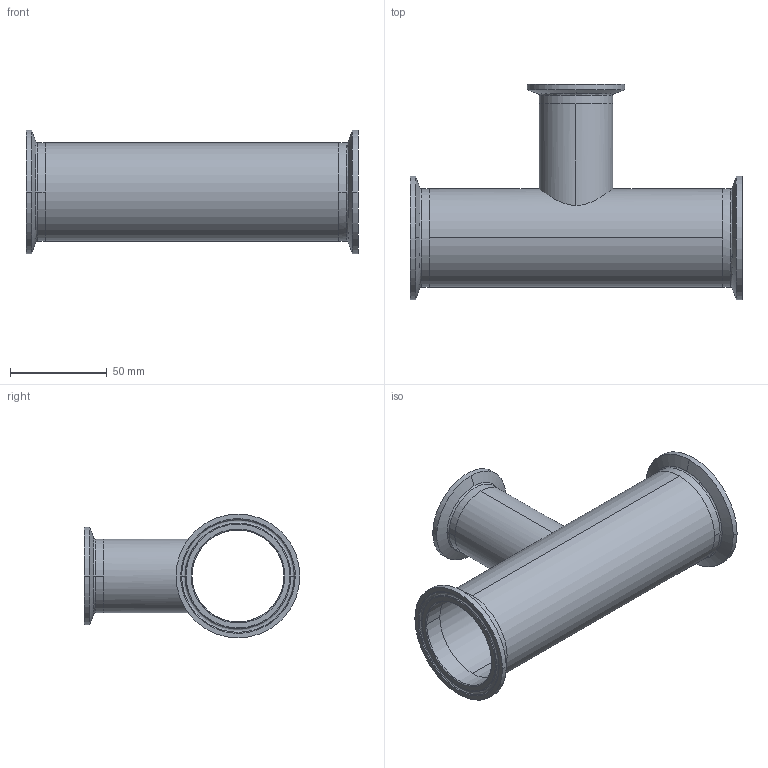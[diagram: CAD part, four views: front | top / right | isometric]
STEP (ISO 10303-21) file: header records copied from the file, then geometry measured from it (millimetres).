
FILE_DESCRIPTION (( 'STEP AP214' ), '1' );
FILE_NAME ('TEG7R6L2.0x1.5-...STEP', '2016-05-24T06:47:52', ( 'eran' ), ( '' ), 'SwSTEP 2.0', 'SolidWorks 2016', '' );
FILE_SCHEMA (( 'AUTOMOTIVE_DESIGN' ));
Length unit declared in the file: millimetre
Products named in the file (1): TEG7R6L2.0x1.5-..
Bounding box: 171.4 x 111.35 x 63.91 mm (x, y, z)
Volume: 65024.9 mm3; surface area: 72263 mm2
Topology: 4 solids, 4 shells, 86 faces, 214 edges, 140 vertices
Faces by surface type: bspline 30, cylinder 26, cone 18, plane 12
Entity records: 4884 total; most frequent: CARTESIAN_POINT 2769, DIRECTION 454, ORIENTED_EDGE 428, EDGE_CURVE 214, AXIS2_PLACEMENT_3D 205, CIRCLE 148, VERTEX_POINT 140, EDGE_LOOP 100
